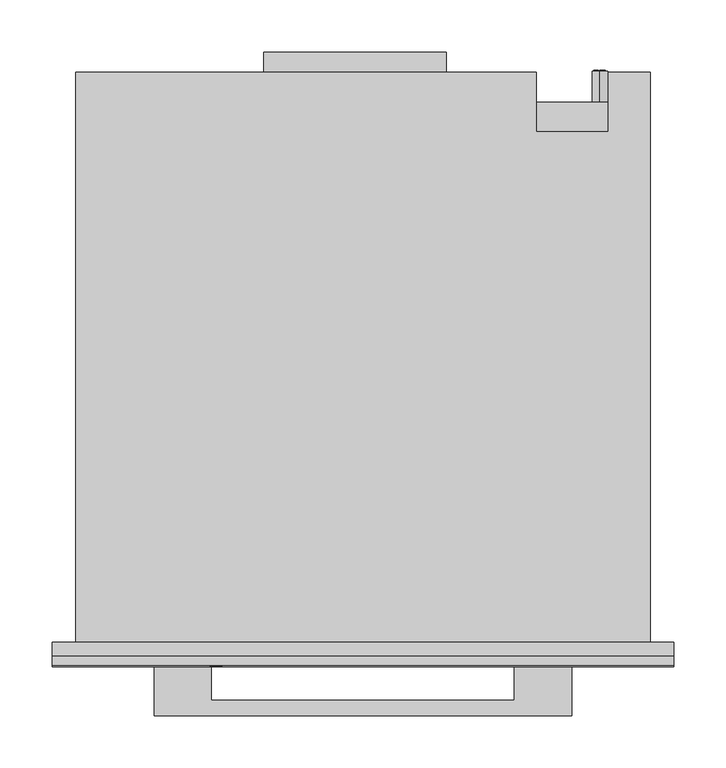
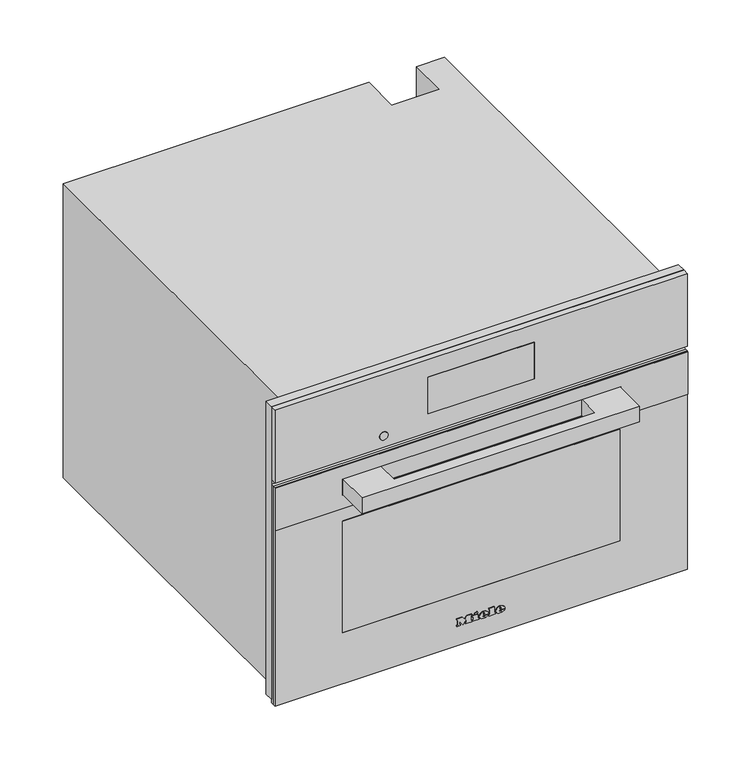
"""IFC4 building model written with IfcOpenShell, lengths in millimetres: proxy geometry, 11876590_USA_DGC7840_EDST-CLST : 23784042_USA_11876590_DGC7840_EDST-CLST."""

from ifc_helpers import new_model, si_unit, point, frame, frame_2d, origin, place, context, project, spatial, polyline, circle_curve, ellipse_curve, trimmed, segment, composite_curve, outline, extrude, faceted_brep, source, transform, mapped, element, save
from ifc_brep_helpers import plane_surface, cylinder_surface, revolved_surface, extruded_surface, advanced_brep


def specialty_equipment_723d5806(model_context):
    return source(origin(), model_context, "Body", "SolidModel", [
        extrude(outline(polyline([(455.0, 297.5), (455.0, -297.5), (9.0, -297.5), (9.0, 297.5), (455.0, 297.5)]), holes=[polyline([(344.0, -272.5), (344.0, 272.5), (27.0, 272.5), (27.0, -272.5), (344.0, -272.5)])]), frame((0.0, -13.0, 0.0), z_axis=(0.0, 1.0, 0.0), x_axis=(0.0, 0.0, 1.0)), (0.0, 0.0, 1.0), 13.0),
        extrude(outline(polyline([(-95.0, 565.0), (80.0, 565.0), (80.0, 546.0), (-95.0, 546.0), (-95.0, 565.0)])), frame((0.0, 0.0, 260.0), z_axis=(0.0, 0.0, 1.0), x_axis=(1.0, 0.0, 0.0)), (0.0, 0.0, 1.0), 1.0),
        advanced_brep(
        [(227.0, 547.0, 255.5), (227.0, 547.0, 240.5), (221.4098301, 547.0, 243.0), (225.5, 547.0, 243.0), (225.5, 547.0, 253.0), (224.4955303, 547.0, 253.0), (224.4955303, 547.0, 244.0), (221.0315043, 547.0, 244.0), (221.0315043, 547.0, 243.4582978), (232.0, 547.0, 243.0), (232.0, 547.0, 253.0), (227.0, 547.0, 253.0), (227.0, 547.0, 252.0), (231.0, 547.0, 252.0), (231.0, 547.0, 248.5), (228.0, 547.0, 248.5), (228.0, 547.0, 247.5), (231.0, 547.0, 247.5), (231.0, 547.0, 244.0), (227.0, 547.0, 244.0), (227.0, 547.0, 243.0), (227.0, 517.0, 240.5), (227.0, 517.0, 255.5), (232.0, 548.0, 253.0), (232.0, 548.0, 243.0), (227.0, 548.0, 243.0), (227.0, 548.0, 244.0), (231.0, 548.0, 244.0), (231.0, 548.0, 247.5), (228.0, 548.0, 247.5), (228.0, 548.0, 248.5), (231.0, 548.0, 248.5), (231.0, 548.0, 252.0), (227.0, 548.0, 252.0), (227.0, 548.0, 253.0), (225.5, 548.0, 243.0), (221.0315043, 548.0, 243.0), (221.0315043, 548.0, 244.0), (224.4955303, 548.0, 244.0), (224.4955303, 548.0, 253.0), (225.5, 548.0, 253.0), (221.0315043, 547.0, 243.0)],
        [
            (0, 1, circle_curve(frame((227.0, 547.0, 248.0), z_axis=(0.0, 1.0, 0.0), x_axis=(0.0, 0.0, 1.0)), 7.5)),
            (1, 2, circle_curve(frame((227.0, 547.0, 248.0), z_axis=(0.0, 1.0, 0.0), x_axis=(0.0, 0.0, 1.0)), 7.5)),
            (2, 3),
            (3, 4),
            (4, 5),
            (5, 6),
            (6, 7),
            (7, 8),
            (8, 0, circle_curve(frame((227.0, 547.0, 248.0), z_axis=(0.0, 1.0, 0.0), x_axis=(0.0, 0.0, 1.0)), 7.5)),
            (9, 10),
            (10, 11),
            (11, 12),
            (12, 13),
            (13, 14),
            (14, 15),
            (15, 16),
            (16, 17),
            (17, 18),
            (18, 19),
            (19, 20),
            (20, 9),
            (21, 22, circle_curve(frame((227.0, 517.0, 248.0), z_axis=(0.0, -1.0, 0.0), x_axis=(0.0, 0.0, 1.0)), 7.5)),
            (22, 21, circle_curve(frame((227.0, 517.0, 248.0), z_axis=(0.0, -1.0, 0.0), x_axis=(0.0, 0.0, 1.0)), 7.5)),
            (0, 22),
            (21, 1),
            (8, 2, circle_curve(frame((227.0, 547.0, 248.0), z_axis=(0.0, -1.0, 0.0), x_axis=(0.0, 0.0, 1.0)), 7.5)),
            (23, 24),
            (24, 25),
            (25, 26),
            (26, 27),
            (27, 28),
            (28, 29),
            (29, 30),
            (30, 31),
            (31, 32),
            (32, 33),
            (33, 34),
            (34, 23),
            (35, 36),
            (36, 37),
            (37, 38),
            (38, 39),
            (39, 40),
            (40, 35),
            (8, 41),
            (41, 2),
            (23, 10),
            (9, 24),
            (20, 25),
            (19, 26),
            (18, 27),
            (17, 28),
            (16, 29),
            (15, 30),
            (14, 31),
            (13, 32),
            (12, 33),
            (11, 34),
            (35, 3),
            (41, 36),
            (7, 37),
            (6, 38),
            (5, 39),
            (4, 40),
        ],
        [
            plane_surface(frame((227.0, 547.0, 255.5), z_axis=(0.0, 1.0, 0.0), x_axis=(1.0, 0.0, 0.0))),
            plane_surface(frame((227.0, 517.0, 255.5), z_axis=(0.0, -1.0, 0.0), x_axis=(-1.0, 0.0, 0.0))),
            cylinder_surface(frame((227.0, 547.0, 248.0), z_axis=(0.0, -1.0, 0.0), x_axis=(0.0, 0.0, 1.0)), 7.5),
            plane_surface(frame((232.0, 548.0, 253.0), z_axis=(0.0, 1.0, 0.0), x_axis=(0.0, 0.0, -1.0))),
            plane_surface(frame((232.0, 547.0, 253.0), z_axis=(0.0, -1.0, 0.0), x_axis=(0.0, 0.0, 1.0))),
            plane_surface(frame((232.0, 548.0, 253.0), z_axis=(1.0, 0.0, 0.0), x_axis=(0.0, -1.0, 0.0))),
            plane_surface(frame((232.0, 548.0, 243.0), z_axis=(0.0, 0.0, -1.0), x_axis=(0.0, -1.0, 0.0))),
            plane_surface(frame((227.0, 548.0, 243.0), z_axis=(-1.0, 0.0, 0.0), x_axis=(0.0, -1.0, 0.0))),
            plane_surface(frame((227.0, 548.0, 244.0), z_axis=(0.0, 0.0, 1.0), x_axis=(0.0, -1.0, 0.0))),
            plane_surface(frame((231.0, 548.0, 244.0), z_axis=(-1.0, 0.0, 0.0), x_axis=(0.0, -1.0, 0.0))),
            plane_surface(frame((231.0, 548.0, 247.5), z_axis=(0.0, 0.0, -1.0), x_axis=(0.0, -1.0, 0.0))),
            plane_surface(frame((228.0, 548.0, 247.5), z_axis=(-1.0, 0.0, 0.0), x_axis=(0.0, -1.0, 0.0))),
            plane_surface(frame((228.0, 548.0, 248.5), z_axis=(0.0, 0.0, 1.0), x_axis=(0.0, -1.0, 0.0))),
            plane_surface(frame((231.0, 548.0, 248.5), z_axis=(-1.0, 0.0, 0.0), x_axis=(0.0, -1.0, 0.0))),
            plane_surface(frame((231.0, 548.0, 252.0), z_axis=(0.0, 0.0, -1.0), x_axis=(0.0, -1.0, 0.0))),
            plane_surface(frame((227.0, 548.0, 252.0), z_axis=(-1.0, 0.0, 0.0), x_axis=(0.0, -1.0, 0.0))),
            plane_surface(frame((227.0, 548.0, 253.0), z_axis=(0.0, 0.0, 1.0), x_axis=(0.0, -1.0, 0.0))),
            plane_surface(frame((225.5, 548.0, 243.0), z_axis=(0.0, 0.0, -1.0), x_axis=(0.0, -1.0, 0.0))),
            plane_surface(frame((221.0315043, 548.0, 243.0), z_axis=(-1.0, 0.0, 0.0), x_axis=(0.0, -1.0, 0.0))),
            plane_surface(frame((221.0315043, 548.0, 244.0), z_axis=(0.0, 0.0, 1.0), x_axis=(0.0, -1.0, 0.0))),
            plane_surface(frame((224.4955303, 548.0, 244.0), z_axis=(-1.0, 0.0, 0.0), x_axis=(0.0, -1.0, 0.0))),
            plane_surface(frame((224.4955303, 548.0, 253.0), z_axis=(0.0, 0.0, 1.0), x_axis=(0.0, -1.0, 0.0))),
            plane_surface(frame((225.5, 548.0, 253.0), z_axis=(1.0, 0.0, 0.0), x_axis=(0.0, -1.0, 0.0))),
        ],
        [
            (0, [[1, 2, 3, 4, 5, 6, 7, 8, 9], [10, 11, 12, 13, 14, 15, 16, 17, 18, 19, 20, 21]]),
            (1, [[22, 23]]),
            (2, [[-1, 24, -22, 25]]),
            (2, [[-23, -24, -9, 26, -2, -25]]),
            (3, [[27, 28, 29, 30, 31, 32, 33, 34, 35, 36, 37, 38]]),
            (3, [[39, 40, 41, 42, 43, 44]]),
            (4, [[45, 46, -26]]),
            (5, [[-27, 47, -10, 48]]),
            (6, [[-28, -48, -21, 49]]),
            (7, [[-29, -49, -20, 50]]),
            (8, [[-30, -50, -19, 51]]),
            (9, [[-31, -51, -18, 52]]),
            (10, [[-32, -52, -17, 53]]),
            (11, [[-33, -53, -16, 54]]),
            (12, [[-34, -54, -15, 55]]),
            (13, [[-35, -55, -14, 56]]),
            (14, [[-36, -56, -13, 57]]),
            (15, [[-37, -57, -12, 58]]),
            (16, [[-38, -58, -11, -47]]),
            (17, [[-39, 59, -3, -46, 60]]),
            (18, [[-40, -60, -45, -8, 61]]),
            (19, [[-41, -61, -7, 62]]),
            (20, [[-42, -62, -6, 63]]),
            (21, [[-43, -63, -5, 64]]),
            (22, [[-44, -64, -4, -59]]),
        ],
    ),
        faceted_brep([(-275.0, 546.0, 0.0), (-275.0, 546.0, 448.0), (166.0, 546.0, 448.0), (166.0, 546.0, 0.0), (235.0, 546.0, 448.0), (275.0, 546.0, 448.0), (275.0, 546.0, 338.0), (235.0, 546.0, 338.0), (275.0, 0.0, 448.0), (-275.0, 0.0, 448.0), (-275.0, 0.0, 0.0), (275.0, 0.0, 0.0), (-272.5, 0.0, 344.0), (272.5, 0.0, 344.0), (272.5, 0.0, 27.0), (-272.5, 0.0, 27.0), (235.0, 489.0, 448.0), (166.0, 489.0, 448.0), (166.0, 517.0, 0.0), (275.0, 517.0, 0.0), (275.0, 517.0, 338.0), (272.5, 17.0, 344.0), (-272.5, 17.0, 344.0), (-272.5, 17.0, 27.0), (272.5, 17.0, 27.0), (231.0, 17.0, 307.0), (231.0, 17.0, 65.0), (-231.0, 17.0, 65.0), (-231.0, 17.0, 307.0), (231.0, 411.0, 307.0), (-231.0, 411.0, 307.0), (-231.0, 411.0, 65.0), (231.0, 411.0, 65.0), (235.0, 489.0, 337.0), (166.0, 489.0, 337.0), (166.0, 517.0, 337.0), (235.0, 517.0, 337.0), (235.0, 517.0, 338.0)], [[[0, 1, 2, 3]], [[4, 5, 6, 7]], [[8, 9, 10, 11], [12, 13, 14, 15]], [[9, 8, 5, 4, 16, 17, 2, 1]], [[1, 0, 10, 9]], [[11, 10, 0, 3, 18, 19]], [[8, 11, 19, 20, 6, 5]], [[21, 22, 23, 24], [25, 26, 27, 28]], [[22, 21, 13, 12]], [[23, 22, 12, 15]], [[24, 23, 15, 14]], [[21, 24, 14, 13]], [[29, 30, 31, 32]], [[29, 32, 26, 25]], [[32, 31, 27, 26]], [[31, 30, 28, 27]], [[30, 29, 25, 28]], [[16, 33, 34, 17]], [[17, 34, 35, 18, 3, 2]], [[34, 33, 36, 35]], [[33, 16, 4, 7, 37, 36]], [[37, 20, 19, 18, 35, 36]], [[20, 37, 7, 6]]]),
        advanced_brep(
        [(26.2998, -23.0, 36.7018), (26.2998, -23.0, 37.8532), (33.9264, -23.0, 37.8532), (20.6568, -23.0, 37.8532), (23.7918, -23.0, 34.0), (33.7326, -23.0, 36.7018), (30.2898, -23.0, 36.7018), (27.5766, -23.0, 35.425), (26.2998, -23.0, 39.3124), (26.2998, -23.0, 40.555), (28.2492, -23.0, 40.555), (28.2492, -23.0, 39.3124), (26.2998, -22.0, 36.7018), (27.5766, -22.0, 35.425), (30.2898, -22.0, 36.7018), (33.7326, -22.0, 36.7018), (23.7918, -22.0, 34.0), (20.6568, -22.0, 37.8532), (33.9264, -22.0, 37.8532), (26.2998, -22.0, 37.8532), (26.2998, -22.0, 39.3124), (28.2492, -22.0, 39.3124), (28.2492, -22.0, 40.555), (26.2998, -22.0, 40.555)],
        [
            (0, 1),
            (1, 2),
            (2, 3, ellipse_curve(frame((27.2916, -23.0, 37.8532), z_axis=(0.0, -1.0, 0.0), x_axis=(-1.0, 0.0, 0.0)), 6.6348, 5.4834)),
            (3, 4, circle_curve(frame((25.0686622, -23.0, 38.2408), z_axis=(0.0, -1.0, 0.0), x_axis=(0.0, 0.0, -1.0)), 4.4288556)),
            (4, 5, circle_curve(frame((27.1587808, -23.0, 41.2504), z_axis=(0.0, -1.0, 0.0), x_axis=(0.0, 0.0, -1.0)), 7.9940516)),
            (5, 6),
            (6, 7, circle_curve(frame((28.1338588, -23.0, 37.762), z_axis=(0.0, 1.0, 0.0), x_axis=(0.0, 0.0, -1.0)), 2.4025208)),
            (7, 0, circle_curve(frame((27.5766, -23.0, 36.7018), z_axis=(0.0, 1.0, 0.0), x_axis=(0.0, 0.0, -1.0)), 1.2768)),
            (8, 9),
            (9, 10, circle_curve(frame((27.2745, -23.0, 40.555), z_axis=(0.0, 1.0, 0.0), x_axis=(0.0, 0.0, -1.0)), 0.9747)),
            (10, 11),
            (11, 8),
            (12, 13, circle_curve(frame((27.5766, -22.0, 36.7018), z_axis=(0.0, -1.0, 0.0), x_axis=(0.0, 0.0, -1.0)), 1.2768)),
            (13, 14, circle_curve(frame((28.1338588, -22.0, 37.762), z_axis=(0.0, -1.0, 0.0), x_axis=(0.0, 0.0, -1.0)), 2.4025208)),
            (14, 15),
            (15, 16, circle_curve(frame((27.1587808, -22.0, 41.2504), z_axis=(0.0, 1.0, 0.0), x_axis=(0.0, 0.0, -1.0)), 7.9940516)),
            (16, 17, circle_curve(frame((25.0686622, -22.0, 38.2408), z_axis=(0.0, 1.0, 0.0), x_axis=(0.0, 0.0, -1.0)), 4.4288556)),
            (17, 18, ellipse_curve(frame((27.2916, -22.0, 37.8532), z_axis=(0.0, 1.0, 0.0), x_axis=(-1.0, 0.0, 0.0)), 6.6348, 5.4834)),
            (18, 19),
            (19, 12),
            (20, 21),
            (21, 22),
            (22, 23, circle_curve(frame((27.2745, -22.0, 40.555), z_axis=(0.0, -1.0, 0.0), x_axis=(0.0, 0.0, -1.0)), 0.9747)),
            (23, 20),
            (0, 12),
            (19, 1),
            (18, 2),
            (5, 15),
            (14, 6),
            (17, 3),
            (13, 7),
            (16, 4),
            (8, 20),
            (23, 9),
            (22, 10),
            (21, 11),
        ],
        [
            plane_surface(frame((26.2998, -23.0, 37.8532), z_axis=(0.0, -1.0, 0.0), x_axis=(0.0, 0.0, 1.0))),
            plane_surface(frame((26.2998, -22.0, 37.8532), z_axis=(0.0, 1.0, 0.0), x_axis=(0.0, 0.0, -1.0))),
            plane_surface(frame((26.2998, -23.0, 36.7018), z_axis=(1.0, 0.0, 0.0), x_axis=(0.0, 1.0, 0.0))),
            plane_surface(frame((26.2998, -23.0, 37.8532), z_axis=(0.0, 0.0, -1.0), x_axis=(0.0, 1.0, 0.0))),
            plane_surface(frame((33.7326, -23.0, 36.7018), z_axis=(0.0, 0.0, 1.0), x_axis=(0.0, 1.0, 0.0))),
            extruded_surface(trimmed(ellipse_curve(frame((27.2916, -21.0, 37.8532), z_axis=(0.0, -1.0, 0.0), x_axis=(-1.0, 0.0, 0.0)), 6.6348, 5.4834), [point((33.9264, -21.0, 37.8532))], [point((20.6568, -21.0, 37.8532))], True, "CARTESIAN"), (0.0, -1.0, 0.0), 1.0),
            revolved_surface(polyline([(28.1338588, -22.0, 35.3594792), (28.1338588, -23.0, 35.3594792)]), (28.1338588, -22.0, 37.762), (0.0, 1.0, 0.0)),
            revolved_surface(polyline([(27.5766, -22.0, 35.425), (27.5766, -23.0, 35.425)]), (27.5766, -22.0, 36.7018), (0.0, 1.0, 0.0)),
            cylinder_surface(frame((25.0686622, -22.0, 38.2408), z_axis=(0.0, -1.0, 0.0), x_axis=(0.0, 0.0, -1.0)), 4.4288556),
            cylinder_surface(frame((27.1587808, -22.0, 41.2504), z_axis=(0.0, -1.0, 0.0), x_axis=(0.0, 0.0, -1.0)), 7.9940516),
            plane_surface(frame((26.2998, -23.0, 39.3124), z_axis=(1.0, 0.0, 0.0), x_axis=(0.0, 1.0, 0.0))),
            revolved_surface(polyline([(27.2745, -22.0, 39.5803), (27.2745, -23.0, 39.5803)]), (27.2745, -22.0, 40.555), (0.0, 1.0, 0.0)),
            plane_surface(frame((28.2492, -23.0, 40.555), z_axis=(-1.0, 0.0, 0.0), x_axis=(0.0, 1.0, 0.0))),
            plane_surface(frame((28.2492, -23.0, 39.3124), z_axis=(0.0, 0.0, 1.0), x_axis=(0.0, 1.0, 0.0))),
        ],
        [
            (0, [[1, 2, 3, 4, 5, 6, 7, 8], [9, 10, 11, 12]]),
            (1, [[13, 14, 15, 16, 17, 18, 19, 20], [21, 22, 23, 24]]),
            (2, [[-1, 25, -20, 26]]),
            (3, [[-2, -26, -19, 27]]),
            (4, [[-6, 28, -15, 29]]),
            (5, [[-3, -27, -18, 30]]),
            (6, [[-7, -29, -14, 31]]),
            (7, [[-8, -31, -13, -25]]),
            (8, [[-4, -30, -17, 32]]),
            (9, [[-5, -32, -16, -28]]),
            (10, [[-9, 33, -24, 34]]),
            (11, [[-10, -34, -23, 35]]),
            (12, [[-11, -35, -22, 36]]),
            (13, [[-12, -36, -21, -33]]),
        ],
    ),
        advanced_brep(
        [(2.508, -23.0, 36.7018), (2.508, -23.0, 37.8532), (10.1346, -23.0, 37.8532), (-3.135, -23.0, 37.8532), (0.0, -23.0, 34.0), (9.9408, -23.0, 36.7018), (6.498, -23.0, 36.7018), (3.7848, -23.0, 35.425), (2.508, -23.0, 39.3124), (2.508, -23.0, 40.555), (4.4574, -23.0, 40.555), (4.4574, -23.0, 39.3124), (2.508, -22.0, 36.7018), (3.7848, -22.0, 35.425), (6.498, -22.0, 36.7018), (9.9408, -22.0, 36.7018), (0.0, -22.0, 34.0), (-3.135, -22.0, 37.8532), (10.1346, -22.0, 37.8532), (2.508, -22.0, 37.8532), (2.508, -22.0, 39.3124), (4.4574, -22.0, 39.3124), (4.4574, -22.0, 40.555), (2.508, -22.0, 40.555)],
        [
            (0, 1),
            (1, 2),
            (2, 3, ellipse_curve(frame((3.4998, -23.0, 37.8532), z_axis=(0.0, -1.0, 0.0), x_axis=(-1.0, 0.0, 0.0)), 6.6348, 5.4834)),
            (3, 4, circle_curve(frame((1.2768622, -23.0, 38.2408), z_axis=(0.0, -1.0, 0.0), x_axis=(0.0, 0.0, -1.0)), 4.4288556)),
            (4, 5, circle_curve(frame((3.3669808, -23.0, 41.2504), z_axis=(0.0, -1.0, 0.0), x_axis=(0.0, 0.0, -1.0)), 7.9940516)),
            (5, 6),
            (6, 7, circle_curve(frame((4.3420588, -23.0, 37.762), z_axis=(0.0, 1.0, 0.0), x_axis=(0.0, 0.0, -1.0)), 2.4025208)),
            (7, 0, circle_curve(frame((3.7848, -23.0, 36.7018), z_axis=(0.0, 1.0, 0.0), x_axis=(0.0, 0.0, -1.0)), 1.2768)),
            (8, 9),
            (9, 10, circle_curve(frame((3.4827, -23.0, 40.555), z_axis=(0.0, 1.0, 0.0), x_axis=(0.0, 0.0, -1.0)), 0.9747)),
            (10, 11),
            (11, 8),
            (12, 13, circle_curve(frame((3.7848, -22.0, 36.7018), z_axis=(0.0, -1.0, 0.0), x_axis=(0.0, 0.0, -1.0)), 1.2768)),
            (13, 14, circle_curve(frame((4.3420588, -22.0, 37.762), z_axis=(0.0, -1.0, 0.0), x_axis=(0.0, 0.0, -1.0)), 2.4025208)),
            (14, 15),
            (15, 16, circle_curve(frame((3.3669808, -22.0, 41.2504), z_axis=(0.0, 1.0, 0.0), x_axis=(0.0, 0.0, -1.0)), 7.9940516)),
            (16, 17, circle_curve(frame((1.2768622, -22.0, 38.2408), z_axis=(0.0, 1.0, 0.0), x_axis=(0.0, 0.0, -1.0)), 4.4288556)),
            (17, 18, ellipse_curve(frame((3.4998, -22.0, 37.8532), z_axis=(0.0, 1.0, 0.0), x_axis=(-1.0, 0.0, 0.0)), 6.6348, 5.4834)),
            (18, 19),
            (19, 12),
            (20, 21),
            (21, 22),
            (22, 23, circle_curve(frame((3.4827, -22.0, 40.555), z_axis=(0.0, -1.0, 0.0), x_axis=(0.0, 0.0, -1.0)), 0.9747)),
            (23, 20),
            (0, 12),
            (19, 1),
            (18, 2),
            (5, 15),
            (14, 6),
            (17, 3),
            (13, 7),
            (16, 4),
            (8, 20),
            (23, 9),
            (22, 10),
            (21, 11),
        ],
        [
            plane_surface(frame((2.508, -23.0, 37.8532), z_axis=(0.0, -1.0, 0.0), x_axis=(0.0, 0.0, 1.0))),
            plane_surface(frame((2.508, -22.0, 37.8532), z_axis=(0.0, 1.0, 0.0), x_axis=(0.0, 0.0, -1.0))),
            plane_surface(frame((2.508, -23.0, 36.7018), z_axis=(1.0, 0.0, 0.0), x_axis=(0.0, 1.0, 0.0))),
            plane_surface(frame((2.508, -23.0, 37.8532), z_axis=(0.0, 0.0, -1.0), x_axis=(0.0, 1.0, 0.0))),
            plane_surface(frame((9.9408, -23.0, 36.7018), z_axis=(0.0, 0.0, 1.0), x_axis=(0.0, 1.0, 0.0))),
            extruded_surface(trimmed(ellipse_curve(frame((3.4998, -21.0, 37.8532), z_axis=(0.0, -1.0, 0.0), x_axis=(-1.0, 0.0, 0.0)), 6.6348, 5.4834), [point((10.1346, -21.0, 37.8532))], [point((-3.135, -21.0, 37.8532))], True, "CARTESIAN"), (0.0, -1.0, 0.0), 1.0),
            revolved_surface(polyline([(4.3420588, -22.0, 35.3594792), (4.3420588, -23.0, 35.3594792)]), (4.3420588, -22.0, 37.762), (0.0, 1.0, 0.0)),
            revolved_surface(polyline([(3.7848, -22.0, 35.425), (3.7848, -23.0, 35.425)]), (3.7848, -22.0, 36.7018), (0.0, 1.0, 0.0)),
            cylinder_surface(frame((1.2768622, -22.0, 38.2408), z_axis=(0.0, -1.0, 0.0), x_axis=(0.0, 0.0, -1.0)), 4.4288556),
            cylinder_surface(frame((3.3669808, -22.0, 41.2504), z_axis=(0.0, -1.0, 0.0), x_axis=(0.0, 0.0, -1.0)), 7.9940516),
            plane_surface(frame((2.508, -23.0, 39.3124), z_axis=(1.0, 0.0, 0.0), x_axis=(0.0, 1.0, 0.0))),
            revolved_surface(polyline([(3.4827, -22.0, 39.5803), (3.4827, -23.0, 39.5803)]), (3.4827, -22.0, 40.555), (0.0, 1.0, 0.0)),
            plane_surface(frame((4.4574, -23.0, 40.555), z_axis=(-1.0, 0.0, 0.0), x_axis=(0.0, 1.0, 0.0))),
            plane_surface(frame((4.4574, -23.0, 39.3124), z_axis=(0.0, 0.0, 1.0), x_axis=(0.0, 1.0, 0.0))),
        ],
        [
            (0, [[1, 2, 3, 4, 5, 6, 7, 8], [9, 10, 11, 12]]),
            (1, [[13, 14, 15, 16, 17, 18, 19, 20], [21, 22, 23, 24]]),
            (2, [[-1, 25, -20, 26]]),
            (3, [[-2, -26, -19, 27]]),
            (4, [[-6, 28, -15, 29]]),
            (5, [[-3, -27, -18, 30]]),
            (6, [[-7, -29, -14, 31]]),
            (7, [[-8, -31, -13, -25]]),
            (8, [[-4, -30, -17, 32]]),
            (9, [[-5, -32, -16, -28]]),
            (10, [[-9, 33, -24, 34]]),
            (11, [[-10, -34, -23, 35]]),
            (12, [[-11, -35, -22, 36]]),
            (13, [[-12, -36, -21, -33]]),
        ],
    ),
        extrude(outline(polyline([(44.7274, -9.9522), (42.8806, -9.0858), (44.6818, -5.2212), (46.5286, -6.0762), (44.7274, -9.9522)])), frame((0.0, -23.0, 0.0), z_axis=(0.0, 1.0, 0.0), x_axis=(0.0, 0.0, 1.0)), (0.0, 0.0, 1.0), 1.0),
        extrude(outline(polyline([(42.6298, -12.768), (40.5892, -12.768), (40.5892, -11.4114), (35.9152, -11.4114), (35.9152, -12.768), (34.0, -12.768), (34.0, -3.7734), (35.9152, -3.7734), (35.9152, -5.0958), (42.6298, -5.0958), (42.6298, -12.768)])), frame((0.0, -23.0, 0.0), z_axis=(0.0, 1.0, 0.0), x_axis=(0.0, 0.0, 1.0)), (0.0, 0.0, 1.0), 1.0),
        extrude(outline(polyline([(43.5418, 10.773), (43.5418, 12.141), (35.9152, 12.141), (35.9152, 10.773), (34.0, 10.773), (34.0, 20.0184), (35.9152, 20.0184), (35.9152, 18.6162), (45.4, 18.6162), (45.4, 10.773), (43.5418, 10.773)])), frame((0.0, -23.0, 0.0), z_axis=(0.0, 1.0, 0.0), x_axis=(0.0, 0.0, 1.0)), (0.0, 0.0, 1.0), 1.0),
        extrude(outline(polyline([(43.5418, -35.4882), (43.5418, -34.1088), (35.9152, -34.1088), (35.9152, -35.4882), (34.0, -35.4882), (34.0, -30.4722), (35.9152, -30.4722), (35.9152, -31.8402), (40.7429247, -31.8402), (34.0, -26.7444), (40.9402223, -21.6258), (35.9152, -21.6258), (35.9152, -23.028), (34.0, -23.028), (34.0, -13.9308), (35.9152, -13.9308), (35.9152, -15.3786), (43.5418, -15.3786), (43.5418, -13.9308), (45.4, -13.9308), (45.4, -20.8734), (41.125, -24.2022), (45.4, -27.5424), (45.4, -35.4882), (43.5418, -35.4882)])), frame((0.0, -23.0, 0.0), z_axis=(0.0, 1.0, 0.0), x_axis=(0.0, 0.0, 1.0)), (0.0, 0.0, 1.0), 1.0),
        extrude(outline(composite_curve([segment(trimmed(circle_curve(frame_2d((361.0, -140.5745637)), 6.0), [point((361.0, -146.5745637))], [point((361.0, -134.5745637))], False, "CARTESIAN"), True, "CONTINUOUS"), segment(trimmed(circle_curve(frame_2d((361.0, -140.5745637)), 6.0), [point((361.0, -134.5745637))], [point((361.0, -146.5745637))], False, "CARTESIAN"), True, "CONTINUOUS")], self_intersect=False)), frame((0.0, -22.5, 0.0), z_axis=(0.0, 1.0, 0.0), x_axis=(0.0, 0.0, 1.0)), (0.0, 0.0, 1.0), 1.0),
        extrude(outline(polyline([(-76.5, -21.0), (76.5, -21.0), (76.5, -22.0), (-76.5, -22.0), (-76.5, -21.0)])), frame((0.0, 0.0, 372.0), z_axis=(0.0, 0.0, 1.0), x_axis=(1.0, 0.0, 0.0)), (0.0, 0.0, 1.0), 56.0),
        faceted_brep([(297.5, -22.0, 455.0), (-297.5, -22.0, 455.0), (-297.5, -22.0, 344.0), (297.5, -22.0, 344.0), (76.5, -22.0, 428.0), (76.5, -22.0, 372.0), (-76.5, -22.0, 372.0), (-76.5, -22.0, 428.0), (297.5, -13.0, 455.0), (297.5, -13.0, 344.0), (-297.5, -13.0, 344.0), (-297.5, -13.0, 455.0), (76.5, -21.0, 428.0), (-76.5, -21.0, 428.0), (-76.5, -21.0, 372.0), (76.5, -21.0, 372.0)], [[[0, 1, 2, 3], [4, 5, 6, 7]], [[8, 9, 10, 11]], [[1, 0, 8, 11]], [[2, 1, 11, 10]], [[3, 2, 10, 9]], [[0, 3, 9, 8]], [[12, 13, 14, 15]], [[12, 15, 5, 4]], [[15, 14, 6, 5]], [[14, 13, 7, 6]], [[13, 12, 4, 7]]]),
        extrude(outline(polyline([(200.0, -22.0), (-200.0, -22.0), (-200.0, -18.0), (200.0, -18.0), (200.0, -22.0)])), frame((0.0, 0.0, 82.0), z_axis=(0.0, 0.0, 1.0), x_axis=(1.0, 0.0, 0.0)), (0.0, 0.0, 1.0), 170.0),
        extrude(outline(polyline([(337.0, 297.5), (337.0, -297.5), (4.0, -297.5), (4.0, 297.5), (337.0, 297.5)]), holes=[polyline([(252.0, -200.0), (252.0, 200.0), (82.0, 200.0), (82.0, -200.0), (252.0, -200.0)])]), frame((0.0, -22.0, 0.0), z_axis=(0.0, 1.0, 0.0), x_axis=(0.0, 0.0, 1.0)), (0.0, 0.0, 1.0), 4.0),
        extrude(outline(polyline([(337.0, 297.5), (337.0, -297.5), (272.0, -297.5), (272.0, 297.5), (337.0, 297.5)]), holes=[polyline([(317.0, -200.5), (317.0, 200.5), (292.0, 200.5), (292.0, -200.5), (317.0, -200.5)])]), frame((0.0, -23.3, 0.0), z_axis=(0.0, 1.0, 0.0), x_axis=(0.0, 0.0, 1.0)), (0.0, 0.0, 1.0), 1.3),
        extrude(outline(polyline([(-200.0, -70.3), (-200.0, -22.0), (-145.0, -22.0), (-145.0, -55.3), (145.0, -55.3), (145.0, -22.0), (200.0, -22.0), (200.0, -70.3), (-200.0, -70.3)])), frame((0.0, 0.0, 292.5), z_axis=(0.0, 0.0, 1.0), x_axis=(1.0, 0.0, 0.0)), (0.0, 0.0, 1.0), 24.0),
        extrude(outline(polyline([(297.5, -18.0), (-297.5, -18.0), (-297.5, -13.0), (297.5, -13.0), (297.5, -18.0)])), frame((0.0, 0.0, 4.0), z_axis=(0.0, 0.0, 1.0), x_axis=(1.0, 0.0, 0.0)), (0.0, 0.0, 1.0), 333.0),
    ])


if __name__ == "__main__":
    model = new_model("IFC4")
    model_context = context("Model", 3, world=origin())
    ifc_project = project(units=[si_unit("LENGTHUNIT", "METRE", prefix="MILLI")], contexts=[model_context])
    site = spatial("IfcSite", under=ifc_project)
    building = spatial("IfcBuilding", under=site)
    placement = place(None, origin())
    specialty_equipment_shape = specialty_equipment_723d5806(model_context)
    element("IfcBuildingElementProxy", 1, Name="11876590_USA_DGC7840_EDST-CLST : 23784042_USA_11876590_DGC7840_EDST-CLST", ObjectType="11876590_USA_DGC7840_EDST-CLST : 23784042_USA_11876590_DGC7840_EDST-CLST", at=placement, inside=building, context=model_context, shape_type="MappedRepresentation", body=[
        mapped(specialty_equipment_shape, transform((0.0, 0.0, 0.0), x_axis=(1.0, 0.0, 0.0), y_axis=(0.0, 1.0, 0.0), z_axis=(0.0, 0.0, 1.0))),
    ])
    save(model, "model.ifc")
